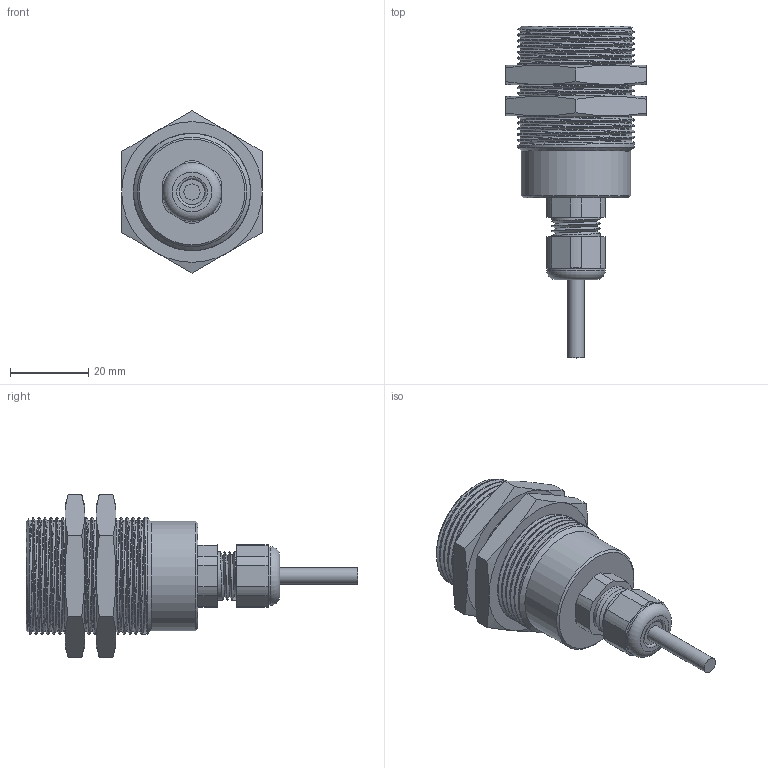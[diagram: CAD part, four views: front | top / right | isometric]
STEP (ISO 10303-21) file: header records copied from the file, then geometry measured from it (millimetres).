
FILE_DESCRIPTION(/* description */ ('Katalogmodell Elobau'),/* implementation_level */ '2;1');
FILE_NAME(/* name */ '171V62V_C.stp',/* time_stamp */ '2014-10-17T11:25:02+02:00',/* author */ ('Elobau GmbH & Co. KG'),/* organization */ ('Elobau GmbH & Co. KG'),/* preprocessor_version */ 'ST-DEVELOPER v15',/* originating_system */ 'SIEMENS PLM Software NX 8.5',/* authorisation */ '');
FILE_SCHEMA (('AUTOMOTIVE_DESIGN { 1 0 10303 214 3 1 1 1 }'));
Length unit declared in the file: millimetre
Products named in the file (12): 850710M2_A; 850710M1_A; 8902711M2_A; 853036_C; 854594(61033)_B; 850711_A; 873510_A; 840105_A; 871716_B; 850710_C_MODEL; 30420000_B_MODEL; 171V62V_C
Assembly tree (13 placements, depth 3):
  171V62V_C
    871716_B  x2
    840105_A
    873510_A
    850711_A
    30420000_B_MODEL
      853036_C
      8902711M2_A
    850710_C_MODEL
      850710M1_A
      850710M2_A
    854594(61033)_B  x2
Bounding box: 36 x 85 x 41.57 mm (x, y, z)
Surface area: 9782.3 mm2 (no closed solid volume)
Topology: 0 solids, 1 shells, 121 faces, 300 edges, 189 vertices
Faces by surface type: plane 41, cone 33, cylinder 31, bspline 14, torus 2
Full cylindrical faces by diameter (mm): 4.1 x1, 6.5 x1, 12.5 x1, 15 x1, 28 x1
Entity records: 22504 total; most frequent: CARTESIAN_POINT 19482, ORIENTED_EDGE 560, DIRECTION 460, EDGE_CURVE 280, AXIS2_PLACEMENT_3D 199, VERTEX_POINT 180, B_SPLINE_CURVE_WITH_KNOTS 139, EDGE_LOOP 138
